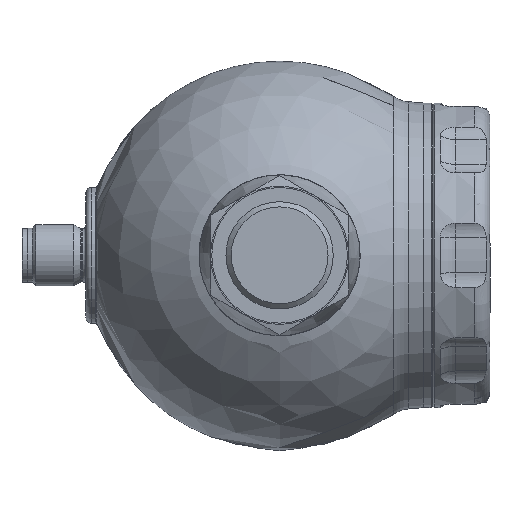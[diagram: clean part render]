
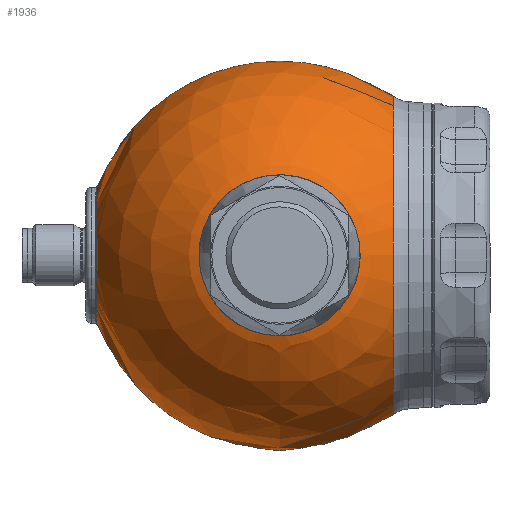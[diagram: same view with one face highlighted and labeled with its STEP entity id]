
A CAD part, left-side view. The second image highlights one B-rep face of the part: STEP entity #1936.
In plain terms, the highlighted spherical face has radius 38.2 mm.
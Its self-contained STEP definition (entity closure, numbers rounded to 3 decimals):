
#43=FACE_BOUND('',#513,.T.);
#44=FACE_BOUND('',#514,.T.);
#141=SPHERICAL_SURFACE('',#2187,38.2);
#390=FACE_OUTER_BOUND('',#512,.T.);
#512=EDGE_LOOP('',(#1541,#1542));
#513=EDGE_LOOP('',(#1543));
#514=EDGE_LOOP('',(#1544));
#641=CIRCLE('',#2141,31.101);
#644=CIRCLE('',#2146,13.065);
#669=CIRCLE('',#2188,38.2);
#810=VERTEX_POINT('',#3569);
#813=VERTEX_POINT('',#3579);
#833=VERTEX_POINT('',#3651);
#834=VERTEX_POINT('',#3652);
#1038=EDGE_CURVE('',#810,#810,#641,.T.);
#1042=EDGE_CURVE('',#813,#813,#644,.T.);
#1077=EDGE_CURVE('',#833,#834,#669,.T.);
#1541=ORIENTED_EDGE('',*,*,#1077,.T.);
#1542=ORIENTED_EDGE('',*,*,#1077,.F.);
#1543=ORIENTED_EDGE('',*,*,#1042,.T.);
#1544=ORIENTED_EDGE('',*,*,#1038,.T.);
#1936=ADVANCED_FACE('',(#390,#43,#44),#141,.T.);
#2141=AXIS2_PLACEMENT_3D('',#3571,#2592,#2593);
#2146=AXIS2_PLACEMENT_3D('',#3580,#2603,#2604);
#2187=AXIS2_PLACEMENT_3D('',#3650,#2695,#2696);
#2188=AXIS2_PLACEMENT_3D('',#3653,#2697,#2698);
#2592=DIRECTION('center_axis',(0.,1.,0.));
#2593=DIRECTION('ref_axis',(0.,0.,-1.));
#2603=DIRECTION('center_axis',(0.,-1.,0.));
#2604=DIRECTION('ref_axis',(0.,0.,
-1.));
#2695=DIRECTION('center_axis',(-1.,0.,0.));
#2696=DIRECTION('ref_axis',(0.,0.,
1.));
#2697=DIRECTION('center_axis',(0.,-1.,0.));
#2698=DIRECTION('ref_axis',(0.,0.,-1.));
#3569=CARTESIAN_POINT('',(118.238,-22.18,0.));
#3571=CARTESIAN_POINT('Origin',(87.137,-22.18,0.));
#3579=CARTESIAN_POINT('',(87.137,35.896,13.065));
#3580=CARTESIAN_POINT('Origin',(87.137,35.896,0.));
#3650=CARTESIAN_POINT('Origin',(87.137,0.,0.));
#3651=CARTESIAN_POINT('',(48.937,0.,0.));
#3652=CARTESIAN_POINT('',(125.337,0.,0.));
#3653=CARTESIAN_POINT('Origin',(87.137,0.,0.));
